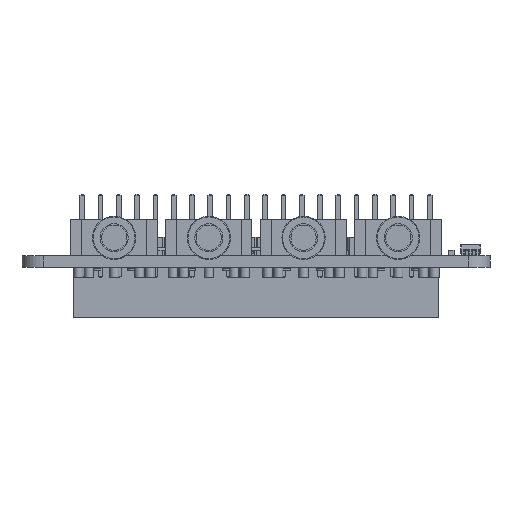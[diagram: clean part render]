
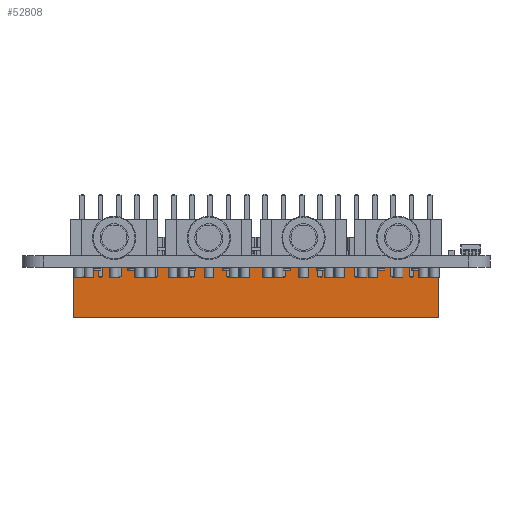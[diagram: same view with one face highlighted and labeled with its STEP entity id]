
A CAD part, front view. The second image highlights one B-rep face of the part: STEP entity #52808.
In plain terms, the highlighted planar face has unit normal (0, -1, 0) as drawn and (1, 0, 0) by its records, which use the part's own axes.
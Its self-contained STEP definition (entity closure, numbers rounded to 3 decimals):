
#52808 = ADVANCED_FACE('',(#52809),#52843,.F.);
#52809 = FACE_BOUND('',#52810,.F.);
#52810 = EDGE_LOOP('',(#52811,#52821,#52829,#52837));
#52811 = ORIENTED_EDGE('',*,*,#52812,.T.);
#52812 = EDGE_CURVE('',#52813,#52815,#52817,.T.);
#52813 = VERTEX_POINT('',#52814);
#52814 = CARTESIAN_POINT('',(1.27,-49.53,0.));
#52815 = VERTEX_POINT('',#52816);
#52816 = CARTESIAN_POINT('',(1.27,-49.53,7.));
#52817 = LINE('',#52818,#52819);
#52818 = CARTESIAN_POINT('',(1.27,-49.53,0.));
#52819 = VECTOR('',#52820,1.);
#52820 = DIRECTION('',(0.,0.,1.));
#52821 = ORIENTED_EDGE('',*,*,#52822,.T.);
#52822 = EDGE_CURVE('',#52815,#52823,#52825,.T.);
#52823 = VERTEX_POINT('',#52824);
#52824 = CARTESIAN_POINT('',(1.27,1.27,7.));
#52825 = LINE('',#52826,#52827);
#52826 = CARTESIAN_POINT('',(1.27,-49.53,7.));
#52827 = VECTOR('',#52828,1.);
#52828 = DIRECTION('',(0.,1.,0.));
#52829 = ORIENTED_EDGE('',*,*,#52830,.F.);
#52830 = EDGE_CURVE('',#52831,#52823,#52833,.T.);
#52831 = VERTEX_POINT('',#52832);
#52832 = CARTESIAN_POINT('',(1.27,1.27,0.));
#52833 = LINE('',#52834,#52835);
#52834 = CARTESIAN_POINT('',(1.27,1.27,0.));
#52835 = VECTOR('',#52836,1.);
#52836 = DIRECTION('',(0.,0.,1.));
#52837 = ORIENTED_EDGE('',*,*,#52838,.F.);
#52838 = EDGE_CURVE('',#52813,#52831,#52839,.T.);
#52839 = LINE('',#52840,#52841);
#52840 = CARTESIAN_POINT('',(1.27,-49.53,0.));
#52841 = VECTOR('',#52842,1.);
#52842 = DIRECTION('',(0.,1.,0.));
#52843 = PLANE('',#52844);
#52844 = AXIS2_PLACEMENT_3D('',#52845,#52846,#52847);
#52845 = CARTESIAN_POINT('',(1.27,-49.53,0.));
#52846 = DIRECTION('',(-1.,0.,0.));
#52847 = DIRECTION('',(0.,1.,0.));
